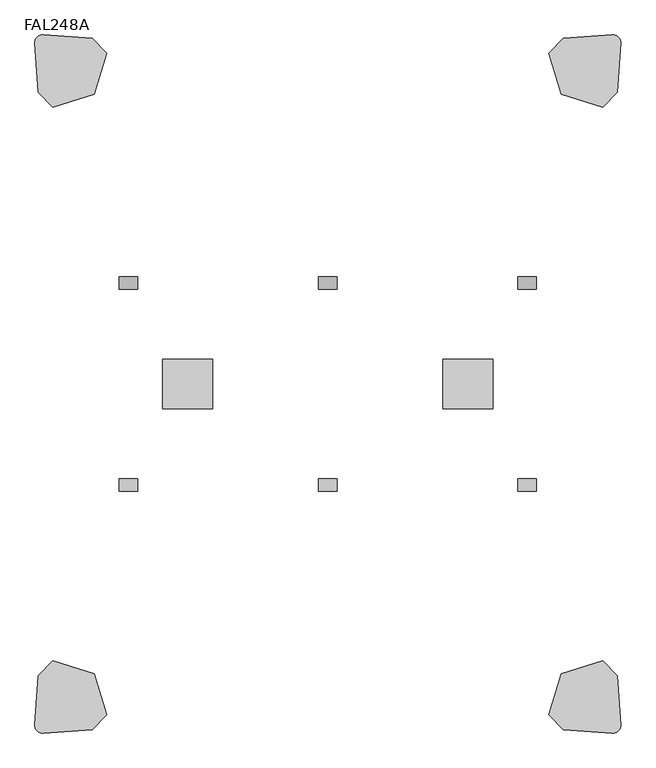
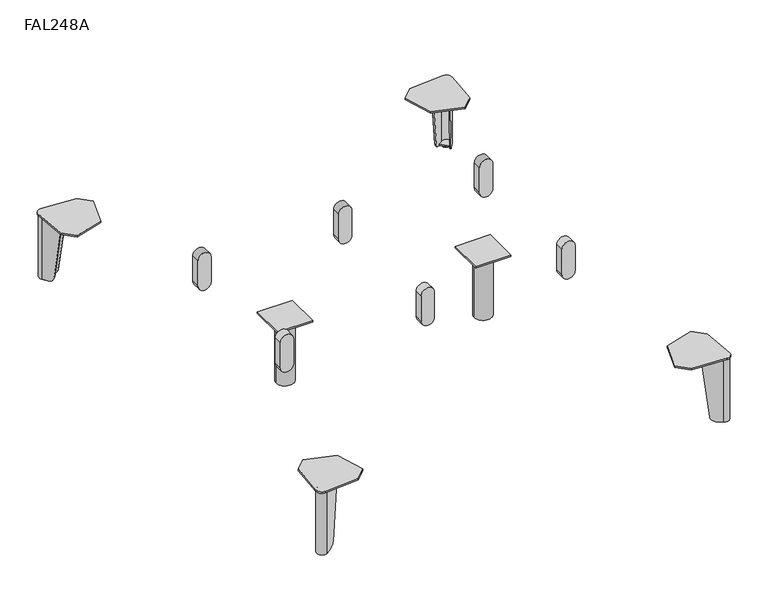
"""IFC4 building model written with IfcOpenShell, lengths in millimetres: furniture geometry, Stance_HC-Flora-Seat_Straight-Double_Side : FAL248A."""

from ifc_helpers import new_model, si_unit, point, frame, frame_2d, origin, origin_with_axes, place, context, project, spatial, polyline, circle_curve, ellipse_curve, trimmed, segment, composite_curve, outline, extrude, source, transform, mapped, element, save
from ifc_brep_helpers import plane_surface, cylinder_surface, revolved_surface, advanced_brep


def fal248a_1760e78e(model_context):
    return source(origin(), model_context, "Body", "SolidModel", [
        extrude(outline(composite_curve([segment(trimmed(circle_curve(frame_2d((298.45, 615.95)), 19.05), [point((298.45, 635.0))], [point((298.45, 596.9))], False, "CARTESIAN"), True, "CONTINUOUS"), segment(polyline([(298.45, 596.9), (222.25, 596.9)]), True, "CONTINUOUS"), segment(trimmed(circle_curve(frame_2d((222.25, 615.95)), 19.05), [point((222.25, 596.9))], [point((222.25, 635.0))], False, "CARTESIAN"), True, "CONTINUOUS"), segment(polyline([(222.25, 635.0), (298.45, 635.0)]), True, "CONTINUOUS")], self_intersect=False)), frame((0.0, 193.3564572, 0.0), z_axis=(0.0, 1.0, 0.0), x_axis=(0.0, 0.0, 1.0)), (0.0, 0.0, 1.0), 25.3999939),
        extrude(outline(composite_curve([segment(trimmed(circle_curve(frame_2d((298.45, 1022.35)), 19.05), [point((298.45, 1041.4))], [point((298.45, 1003.3))], False, "CARTESIAN"), True, "CONTINUOUS"), segment(polyline([(298.45, 1003.3), (222.25, 1003.3)]), True, "CONTINUOUS"), segment(trimmed(circle_curve(frame_2d((222.25, 1022.35)), 19.05), [point((222.25, 1003.3))], [point((222.25, 1041.4))], False, "CARTESIAN"), True, "CONTINUOUS"), segment(polyline([(222.25, 1041.4), (298.45, 1041.4)]), True, "CONTINUOUS")], self_intersect=False)), frame((0.0, 193.3564572, 0.0), z_axis=(0.0, 1.0, 0.0), x_axis=(0.0, 0.0, 1.0)), (0.0, 0.0, 1.0), 25.3999939),
        extrude(outline(composite_curve([segment(trimmed(circle_curve(frame_2d((298.45, 209.55)), 19.05), [point((298.45, 228.6))], [point((298.45, 190.5))], False, "CARTESIAN"), True, "CONTINUOUS"), segment(polyline([(298.45, 190.5), (222.25, 190.5)]), True, "CONTINUOUS"), segment(trimmed(circle_curve(frame_2d((222.25, 209.55)), 19.05), [point((222.25, 190.5))], [point((222.25, 228.6))], False, "CARTESIAN"), True, "CONTINUOUS"), segment(polyline([(222.25, 228.6), (298.45, 228.6)]), True, "CONTINUOUS")], self_intersect=False)), frame((0.0, 193.3564572, 0.0), z_axis=(0.0, 1.0, 0.0), x_axis=(0.0, 0.0, 1.0)), (0.0, 0.0, 1.0), 25.3999939),
        extrude(outline(composite_curve([segment(trimmed(circle_curve(frame_2d((901.7, 0.0)), 11.1125), [point((890.5875, 0.0))], [point((912.8125, 0.0))], False, "CARTESIAN"), True, "CONTINUOUS"), segment(trimmed(circle_curve(frame_2d((901.7, 0.0)), 11.1125), [point((912.8125, 0.0))], [point((890.5875, 0.0))], False, "CARTESIAN"), True, "CONTINUOUS")], self_intersect=False)), origin_with_axes(), (0.0, 0.0, 1.0), 3.175),
        extrude(outline(polyline([(952.5000061, 50.7999879), (952.5000061, -50.7999879), (850.8999939, -50.7999879), (850.8999939, 50.7999879), (952.5000061, 50.7999879)])), frame((0.0, 0.0, 193.6877233), z_axis=(0.0, 0.0, 1.0), x_axis=(1.0, 0.0, 0.0)), (0.0, 0.0, 1.0), 4.7751809),
        extrude(outline(composite_curve([segment(trimmed(circle_curve(frame_2d((901.7, 0.0)), 25.205275), [point((876.494725, 0.0))], [point((926.905275, 0.0))], False, "CARTESIAN"), True, "CONTINUOUS"), segment(trimmed(circle_curve(frame_2d((901.7, 0.0)), 25.205275), [point((926.905275, 0.0))], [point((876.494725, 0.0))], False, "CARTESIAN"), True, "CONTINUOUS")], self_intersect=False)), frame((0.0, 0.0, 3.175), z_axis=(0.0, 0.0, 1.0), x_axis=(1.0, 0.0, 0.0)), (0.0, 0.0, 1.0), 190.5127233),
        extrude(outline(composite_curve([segment(trimmed(circle_curve(frame_2d((330.2, 0.0)), 11.1125), [point((319.0875, 0.0))], [point((341.3125, 0.0))], False, "CARTESIAN"), True, "CONTINUOUS"), segment(trimmed(circle_curve(frame_2d((330.2, 0.0)), 11.1125), [point((341.3125, 0.0))], [point((319.0875, 0.0))], False, "CARTESIAN"), True, "CONTINUOUS")], self_intersect=False)), origin_with_axes(), (0.0, 0.0, 1.0), 3.175),
        extrude(outline(polyline([(381.0000061, 50.7999879), (381.0000061, -50.7999879), (279.3999939, -50.7999879), (279.3999939, 50.7999879), (381.0000061, 50.7999879)])), frame((0.0, 0.0, 193.6877233), z_axis=(0.0, 0.0, 1.0), x_axis=(1.0, 0.0, 0.0)), (0.0, 0.0, 1.0), 4.7751809),
        extrude(outline(composite_curve([segment(trimmed(circle_curve(frame_2d((330.2, 0.0)), 25.205275), [point((304.994725, 0.0))], [point((355.405275, 0.0))], False, "CARTESIAN"), True, "CONTINUOUS"), segment(trimmed(circle_curve(frame_2d((330.2, 0.0)), 25.205275), [point((355.405275, 0.0))], [point((304.994725, 0.0))], False, "CARTESIAN"), True, "CONTINUOUS")], self_intersect=False)), frame((0.0, 0.0, 3.175), z_axis=(0.0, 0.0, 1.0), x_axis=(1.0, 0.0, 0.0)), (0.0, 0.0, 1.0), 190.5127233),
        extrude(outline(composite_curve([segment(polyline([(298.45, 596.9), (222.25, 596.9)]), True, "CONTINUOUS"), segment(trimmed(circle_curve(frame_2d((222.25, 615.95)), 19.05), [point((222.25, 596.9))], [point((222.25, 635.0))], False, "CARTESIAN"), True, "CONTINUOUS"), segment(polyline([(222.25, 635.0), (298.45, 635.0)]), True, "CONTINUOUS"), segment(trimmed(circle_curve(frame_2d((298.45, 615.95)), 19.05), [point((298.45, 635.0))], [point((298.45, 596.9))], False, "CARTESIAN"), True, "CONTINUOUS")], self_intersect=False)), frame((0.0, -218.7564511, 0.0), z_axis=(0.0, 1.0, 0.0), x_axis=(0.0, 0.0, 1.0)), (0.0, 0.0, 1.0), 25.3999939),
        extrude(outline(composite_curve([segment(polyline([(298.45, 1003.3), (222.25, 1003.3)]), True, "CONTINUOUS"), segment(trimmed(circle_curve(frame_2d((222.25, 1022.35)), 19.05), [point((222.25, 1003.3))], [point((222.25, 1041.4))], False, "CARTESIAN"), True, "CONTINUOUS"), segment(polyline([(222.25, 1041.4), (298.45, 1041.4)]), True, "CONTINUOUS"), segment(trimmed(circle_curve(frame_2d((298.45, 1022.35)), 19.05), [point((298.45, 1041.4))], [point((298.45, 1003.3))], False, "CARTESIAN"), True, "CONTINUOUS")], self_intersect=False)), frame((0.0, -218.7564511, 0.0), z_axis=(0.0, 1.0, 0.0), x_axis=(0.0, 0.0, 1.0)), (0.0, 0.0, 1.0), 25.3999939),
        extrude(outline(composite_curve([segment(polyline([(298.45, 190.5), (222.25, 190.5)]), True, "CONTINUOUS"), segment(trimmed(circle_curve(frame_2d((222.25, 209.55)), 19.05), [point((222.25, 190.5))], [point((222.25, 228.6))], False, "CARTESIAN"), True, "CONTINUOUS"), segment(polyline([(222.25, 228.6), (298.45, 228.6)]), True, "CONTINUOUS"), segment(trimmed(circle_curve(frame_2d((298.45, 209.55)), 19.05), [point((298.45, 228.6))], [point((298.45, 190.5))], False, "CARTESIAN"), True, "CONTINUOUS")], self_intersect=False)), frame((0.0, -218.7564511, 0.0), z_axis=(0.0, 1.0, 0.0), x_axis=(0.0, 0.0, 1.0)), (0.0, 0.0, 1.0), 25.3999939),
        extrude(outline(composite_curve([segment(polyline([(1176.0692791, 694.0381043), (1189.3741789, 703.3543316)]), True, "CONTINUOUS"), segment(trimmed(circle_curve(frame_2d((1196.0246983, 693.8564425)), 11.5947965), [point((1189.3741789, 703.3543316))], [point((1205.5225874, 687.2059231))], False, "CARTESIAN"), True, "CONTINUOUS"), segment(polyline([(1205.5225874, 687.2059231), (1196.2063601, 673.9010233), (1176.0692791, 694.0381043)]), True, "CONTINUOUS")], self_intersect=False)), frame((0.0, 0.0, 3.175), z_axis=(0.0, 0.0, 1.0), x_axis=(1.0, 0.0, 0.0)), (0.0, 0.0, 1.0), 3.3792927),
        advanced_brep(
        [(1176.2314582, 639.7701134, 193.6877233), (1208.1555647, 685.3622854, 193.6877233), (1187.5305412, 705.9873089, 193.6877233), (1141.9383719, 674.0632043, 193.6877233), (1143.7820096, 671.430227, 193.6877233), (1189.3741789, 703.3543316, 193.6877233), (1205.5225874, 687.2059231, 193.6877233), (1173.5984809, 641.6137512, 193.6877233), (1176.2314582, 639.7701134, 189.1419595), (1205.5225874, 687.2059231, 3.1876992), (1195.4018779, 672.7521081, 3.1876992), (1186.2247818, 659.6459075, 17.1280233), (1189.3741789, 703.3543316, 3.1876992), (1161.8141633, 684.056526, 17.1280233), (1174.9203639, 693.2336221, 3.1876992), (1141.9383719, 674.0632043, 189.1419334), (1187.5305412, 705.9873089, 3.1876992), (1172.6124662, 695.5415198, 3.1876992), (1159.5062656, 686.3644237, 17.1280233), (1208.1555647, 685.3622854, 3.1876992), (1188.5326795, 657.3380098, 17.1280233), (1197.7097756, 670.4442103, 3.1876992)],
        [
            (0, 1),
            (1, 2, circle_curve(frame((1196.0246983, 693.8564425, 193.6877233), z_axis=(0.0, 0.0, 1.0), x_axis=(-1.0, 0.0, 0.0)), 14.8090724)),
            (2, 3),
            (3, 4),
            (4, 5),
            (5, 6, circle_curve(frame((1196.0246983, 693.8564425, 193.6877233), z_axis=(0.0, 0.0, -1.0), x_axis=(-1.0, 0.0, 0.0)), 11.5947965)),
            (6, 7),
            (7, 0),
            (7, 8),
            (8, 0),
            (6, 9),
            (9, 10),
            (10, 11, ellipse_curve(frame((1195.4018779, 672.7521081, 19.0626992), z_axis=(-0.8191509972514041, 0.5735779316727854, 0.0), x_axis=(-0.5735779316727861, -0.8191509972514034, 0.0)), 16.1198923, 15.875)),
            (11, 7),
            (5, 12),
            (12, 9, circle_curve(frame((1196.0246983, 693.8564425, 3.1876992), z_axis=(0.0, 0.0, -1.0), x_axis=(-1.0, 0.0, 0.0)), 11.5947965)),
            (4, 13),
            (13, 14, ellipse_curve(frame((1174.9203639, 693.2336221, 19.0626992), z_axis=(0.5735779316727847, -0.8191509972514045, 0.0), x_axis=(0.8191509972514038, 0.5735779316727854, 0.0)), 16.1198923, 15.875)),
            (14, 12),
            (3, 15),
            (15, 4),
            (2, 16),
            (16, 17),
            (17, 18, ellipse_curve(frame((1172.6124662, 695.5415198, 19.0626992), z_axis=(-0.5735779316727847, 0.8191509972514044, 0.0), x_axis=(0.8191509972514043, 0.573577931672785, 0.0)), 16.1198923, 15.875)),
            (18, 15),
            (1, 19),
            (19, 16, circle_curve(frame((1196.0246983, 693.8564425, 3.1876992), z_axis=(0.0, 0.0, 1.0), x_axis=(-1.0, 0.0, 0.0)), 14.8090724)),
            (8, 20),
            (20, 21, ellipse_curve(frame((1197.7097756, 670.4442103, 19.0626992), z_axis=(0.8191509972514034, -0.5735779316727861, 0.0), x_axis=(-0.5735779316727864, -0.8191509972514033, 0.0)), 16.1198923, 15.875)),
            (21, 19),
            (18, 13),
            (11, 20),
            (21, 10),
            (14, 17),
        ],
        [
            plane_surface(frame((1173.5984809, 641.6137512, 193.6877233), z_axis=(0.0, 0.0, 1.0000000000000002), x_axis=(-0.8191509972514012, 0.5735779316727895, 0.0))),
            plane_surface(frame((1176.2314582, 639.7701134, 193.6877233), z_axis=(-0.5735779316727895, -0.8191509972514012, 0.0), x_axis=(0.0, 0.0, -1.0))),
            plane_surface(frame((1173.5984809, 641.6137512, 193.6877233), z_axis=(-0.8191509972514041, 0.5735779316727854, 0.0), x_axis=(0.0, 0.0, -1.0))),
            revolved_surface(polyline([(1184.4299018, 693.8564425, 3.1876992), (1184.4299018, 693.8564425, 193.6877233)]), (1196.0246983, 693.8564425, 0.0), (0.0, 0.0, -1.0)),
            plane_surface(frame((1189.3741789, 703.3543316, 193.6877233), z_axis=(0.5735779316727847, -0.8191509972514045, 0.0), x_axis=(0.0, 0.0, -1.0))),
            plane_surface(frame((1143.7820096, 671.430227, 193.6877233), z_axis=(-0.8191509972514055, -0.5735779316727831, 0.0), x_axis=(0.0, 0.0, -1.0))),
            plane_surface(frame((1141.9383719, 674.0632043, 193.6877233), z_axis=(-0.5735779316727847, 0.8191509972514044, 0.0), x_axis=(0.0, 0.0, -1.0))),
            cylinder_surface(frame((1196.0246983, 693.8564425, 0.0), z_axis=(0.0, 0.0, 1.0), x_axis=(-1.0, 0.0, 0.0)), 14.8090724),
            plane_surface(frame((1208.1555647, 685.3622854, 193.6877233), z_axis=(0.8191509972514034, -0.5735779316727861, 0.0), x_axis=(0.0, 0.0, -1.0))),
            plane_surface(frame((1153.6224625, 692.2482268, 17.1280233), z_axis=(-0.7018361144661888, -0.7018361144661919, -0.12186934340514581), x_axis=(0.7071067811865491, -0.707106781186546, 0.0))),
            plane_surface(frame((1186.112818, 724.7385823, 3.1876992), z_axis=(0.0, 0.0, -1.0), x_axis=(0.707106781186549, -0.707106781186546, 0.0))),
            cylinder_surface(frame((1205.5497538, 662.6042321, 19.0626992), z_axis=(0.7071067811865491, -0.707106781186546, 0.0), x_axis=(-0.707106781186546, -0.7071067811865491, 0.0)), 15.875),
        ],
        [
            (0, [[1, 2, 3, 4, 5, 6, 7, 8]]),
            (1, [[9, 10, -8]]),
            (2, [[11, 12, 13, 14, -7]]),
            (3, [[15, 16, -11, -6]]),
            (4, [[17, 18, 19, -15, -5]]),
            (5, [[20, 21, -4]]),
            (6, [[22, 23, 24, 25, -20, -3]]),
            (7, [[26, 27, -22, -2]]),
            (8, [[-10, 28, 29, 30, -26, -1]]),
            (9, [[-17, -21, -25, 31]]),
            (9, [[-28, -9, -14, 32]]),
            (10, [[-23, -27, -30, 33, -12, -16, -19, 34]]),
            (11, [[-13, -33, -29, -32]]),
            (11, [[-24, -34, -18, -31]]),
        ],
    ),
        extrude(outline(composite_curve([segment(trimmed(circle_curve(frame_2d((1193.9913541, 691.8314754)), 11.1125), [point((1205.1038541, 691.8314754))], [point((1182.8788541, 691.8314754))], False, "CARTESIAN"), True, "CONTINUOUS"), segment(trimmed(circle_curve(frame_2d((1193.9913541, 691.8314754)), 11.1125), [point((1182.8788541, 691.8314754))], [point((1205.1038541, 691.8314754))], False, "CARTESIAN"), True, "CONTINUOUS")], self_intersect=False)), origin_with_axes(), (0.0, 0.0, 1.0), 3.175),
        extrude(outline(composite_curve([segment(trimmed(circle_curve(frame_2d((1197.3438064, 695.1755514)), 15.8749964), [point((1196.2364228, 711.0118771))], [point((1213.1801321, 694.068168))], False, "CARTESIAN"), True, "CONTINUOUS"), segment(polyline([(1213.1801321, 694.068168), (1206.1831602, 594.0067725), (1176.3327865, 564.1564041), (1092.3896864, 590.2214231), (1066.3246518, 674.1645314), (1096.1750239, 704.0149035), (1196.2364228, 711.0118771)]), True, "CONTINUOUS")], self_intersect=False)), frame((0.0, 0.0, 193.6877233), z_axis=(0.0, 0.0, 1.0), x_axis=(1.0, 0.0, 0.0)), (0.0, 0.0, 1.0), 4.7751809),
        extrude(outline(composite_curve([segment(polyline([(1176.0692791, -694.2378839), (1196.2063601, -674.1008029), (1205.5225874, -687.4057027)]), True, "CONTINUOUS"), segment(trimmed(circle_curve(frame_2d((1196.0246983, -694.0562221)), 11.5947965), [point((1205.5225874, -687.4057027))], [point((1189.3741789, -703.5541112))], False, "CARTESIAN"), True, "CONTINUOUS"), segment(polyline([(1189.3741789, -703.5541112), (1176.0692791, -694.2378839)]), True, "CONTINUOUS")], self_intersect=False)), frame((0.0, 0.0, 3.175), z_axis=(0.0, 0.0, 1.0), x_axis=(1.0, 0.0, 0.0)), (0.0, 0.0, 1.0), 3.3792927),
        advanced_brep(
        [(1176.2314582, -639.969893, 193.6877233), (1173.5984809, -641.8135308, 193.6877233), (1205.5225874, -687.4057027, 193.6877233), (1189.3741789, -703.5541112, 193.6877233), (1143.7820096, -671.6300066, 193.6877233), (1141.9383719, -674.2629839, 193.6877233), (1187.5305412, -706.1870885, 193.6877233), (1208.1555647, -685.562065, 193.6877233), (1176.2314582, -639.969893, 189.1419595), (1186.2247818, -659.8456871, 17.1280233), (1195.4018779, -672.9518877, 3.1876992), (1205.5225874, -687.4057027, 3.1876992), (1189.3741789, -703.5541112, 3.1876992), (1174.9203639, -693.4334017, 3.1876992), (1161.8141633, -684.2563056, 17.1280233), (1141.9383719, -674.2629839, 189.1419334), (1159.5062656, -686.5642033, 17.1280233), (1172.6124662, -695.7412994, 3.1876992), (1187.5305412, -706.1870885, 3.1876992), (1208.1555647, -685.562065, 3.1876992), (1197.7097756, -670.64399, 3.1876992), (1188.5326795, -657.5377894, 17.1280233)],
        [
            (0, 1),
            (1, 2),
            (2, 3, circle_curve(frame((1196.0246983, -694.0562221, 193.6877233), z_axis=(0.0, 0.0, -1.0), x_axis=(-1.0, 0.0, 0.0)), 11.5947965)),
            (3, 4),
            (4, 5),
            (5, 6),
            (6, 7, circle_curve(frame((1196.0246983, -694.0562221, 193.6877233), z_axis=(0.0, 0.0, 1.0), x_axis=(-1.0, 0.0, 0.0)), 14.8090724)),
            (7, 0),
            (0, 8),
            (8, 1),
            (1, 9),
            (9, 10, ellipse_curve(frame((1195.4018779, -672.9518877, 19.0626992), z_axis=(-0.8191509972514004, -0.5735779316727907, 0.0), x_axis=(-0.5735779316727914, 0.8191509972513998, 0.0)), 16.1198923, 15.875)),
            (10, 11),
            (11, 2),
            (11, 12, circle_curve(frame((1196.0246983, -694.0562221, 3.1876992), z_axis=(0.0, 0.0, -1.0), x_axis=(-1.0, 0.0, 0.0)), 11.5947965)),
            (12, 3),
            (12, 13),
            (13, 14, ellipse_curve(frame((1174.9203639, -693.4334017, 19.0626992), z_axis=(0.5735779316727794, 0.8191509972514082, 0.0), x_axis=(0.8191509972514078, -0.5735779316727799, 0.0)), 16.1198923, 15.875)),
            (14, 4),
            (4, 15),
            (15, 5),
            (15, 16),
            (16, 17, ellipse_curve(frame((1172.6124662, -695.7412994, 19.0626992), z_axis=(-0.5735779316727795, -0.8191509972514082, 0.0), x_axis=(0.8191509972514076, -0.5735779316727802, 0.0)), 16.1198923, 15.875)),
            (17, 18),
            (18, 6),
            (18, 19, circle_curve(frame((1196.0246983, -694.0562221, 3.1876992), z_axis=(0.0, 0.0, 1.0), x_axis=(-1.0, 0.0, 0.0)), 14.8090724)),
            (19, 7),
            (19, 20),
            (20, 21, ellipse_curve(frame((1197.7097756, -670.64399, 19.0626992), z_axis=(0.8191509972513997, 0.5735779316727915, 0.0), x_axis=(-0.573577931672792, 0.8191509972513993, 0.0)), 16.1198923, 15.875)),
            (21, 8),
            (14, 16),
            (21, 9),
            (17, 13),
            (10, 20),
        ],
        [
            plane_surface(frame((1173.5984809, -641.8135308, 193.6877233), z_axis=(0.0, 0.0, 0.9999999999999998), x_axis=(-0.8191509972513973, -0.5735779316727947, 0.0))),
            plane_surface(frame((1176.2314582, -639.969893, 193.6877233), z_axis=(-0.5735779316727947, 0.8191509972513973, 0.0), x_axis=(0.0, 0.0, -1.0))),
            plane_surface(frame((1173.5984809, -641.8135308, 193.6877233), z_axis=(-0.8191509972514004, -0.5735779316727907, 0.0), x_axis=(0.0, 0.0, -1.0))),
            revolved_surface(polyline([(1184.4299018, -694.0562221, 3.1876992), (1184.4299018, -694.0562221, 193.6877233)]), (1196.0246983, -694.0562221, 0.0), (0.0, 0.0, -1.0)),
            plane_surface(frame((1189.3741789, -703.5541112, 193.6877233), z_axis=(0.5735779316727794, 0.8191509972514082, 0.0), x_axis=(0.0, 0.0, -1.0))),
            plane_surface(frame((1143.7820096, -671.6300066, 193.6877233), z_axis=(-0.8191509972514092, 0.5735779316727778, 0.0), x_axis=(0.0, 0.0, -1.0))),
            plane_surface(frame((1141.9383719, -674.2629839, 193.6877233), z_axis=(-0.5735779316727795, -0.8191509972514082, 0.0), x_axis=(0.0, 0.0, -1.0))),
            cylinder_surface(frame((1196.0246983, -694.0562221, 0.0), z_axis=(0.0, 0.0, 1.0), x_axis=(-1.0, 0.0, 0.0)), 14.8090724),
            plane_surface(frame((1208.1555647, -685.562065, 193.6877233), z_axis=(0.8191509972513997, 0.5735779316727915, 0.0), x_axis=(0.0, 0.0, -1.0))),
            plane_surface(frame((1153.6224625, -692.4480064, 17.1280233), z_axis=(-0.7018361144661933, 0.7018361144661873, -0.12186934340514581), x_axis=(0.7071067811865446, 0.7071067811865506, 0.0))),
            plane_surface(frame((1186.112818, -724.9383619, 3.1876992), z_axis=(0.0, 0.0, -1.0), x_axis=(0.7071067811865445, 0.7071067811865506, 0.0))),
            cylinder_surface(frame((1205.5497538, -662.8040117, 19.0626992), z_axis=(0.7071067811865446, 0.7071067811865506, 0.0), x_axis=(-0.7071067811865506, 0.7071067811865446, 0.0)), 15.875),
        ],
        [
            (0, [[1, 2, 3, 4, 5, 6, 7, 8]]),
            (1, [[-1, 9, 10]]),
            (2, [[-2, 11, 12, 13, 14]]),
            (3, [[-3, -14, 15, 16]]),
            (4, [[-4, -16, 17, 18, 19]]),
            (5, [[-5, 20, 21]]),
            (6, [[-6, -21, 22, 23, 24, 25]]),
            (7, [[-7, -25, 26, 27]]),
            (8, [[-8, -27, 28, 29, 30, -9]]),
            (9, [[31, -22, -20, -19]]),
            (9, [[32, -11, -10, -30]]),
            (10, [[33, -17, -15, -13, 34, -28, -26, -24]]),
            (11, [[-31, -18, -33, -23]]),
            (11, [[-32, -29, -34, -12]]),
        ],
    ),
        extrude(outline(composite_curve([segment(trimmed(circle_curve(frame_2d((1193.9913541, -692.031255)), 11.1125), [point((1205.1038541, -692.031255))], [point((1182.8788541, -692.031255))], False, "CARTESIAN"), True, "CONTINUOUS"), segment(trimmed(circle_curve(frame_2d((1193.9913541, -692.031255)), 11.1125), [point((1182.8788541, -692.031255))], [point((1205.1038541, -692.031255))], False, "CARTESIAN"), True, "CONTINUOUS")], self_intersect=False)), origin_with_axes(), (0.0, 0.0, 1.0), 3.175),
        extrude(outline(composite_curve([segment(polyline([(1196.2364228, -711.2116567), (1096.1750239, -704.2146831), (1066.3246518, -674.364311), (1092.3896864, -590.4212027), (1176.3327865, -564.3561837), (1206.1831602, -594.2065521), (1213.1801321, -694.2679476)]), True, "CONTINUOUS"), segment(trimmed(circle_curve(frame_2d((1197.3438064, -695.375331)), 15.8749964), [point((1213.1801321, -694.2679476))], [point((1196.2364228, -711.2116567))], False, "CARTESIAN"), True, "CONTINUOUS")], self_intersect=False)), frame((0.0, 0.0, 193.6877233), z_axis=(0.0, 0.0, 1.0), x_axis=(1.0, 0.0, 0.0)), (0.0, 0.0, 1.0), 4.7751809),
        extrude(outline(composite_curve([segment(polyline([(55.8307262, -694.2378839), (42.5258264, -703.5541112)]), True, "CONTINUOUS"), segment(trimmed(circle_curve(frame_2d((35.875307, -694.0562221)), 11.5947965), [point((42.5258264, -703.5541112))], [point((26.3774179, -687.4057027))], False, "CARTESIAN"), True, "CONTINUOUS"), segment(polyline([(26.3774179, -687.4057027), (35.6936452, -674.1008029), (55.8307262, -694.2378839)]), True, "CONTINUOUS")], self_intersect=False)), frame((0.0, 0.0, 3.175), z_axis=(0.0, 0.0, 1.0), x_axis=(1.0, 0.0, 0.0)), (0.0, 0.0, 1.0), 3.3792927),
        advanced_brep(
        [(55.6685471, -639.969893, 193.6877233), (23.7444406, -685.562065, 193.6877233), (44.3694641, -706.1870885, 193.6877233), (89.9616334, -674.2629839, 193.6877233), (88.1179957, -671.6300066, 193.6877233), (42.5258264, -703.5541112, 193.6877233), (26.3774179, -687.4057027, 193.6877233), (58.3015244, -641.8135308, 193.6877233), (55.6685471, -639.969893, 189.1419595), (26.3774179, -687.4057027, 3.1876992), (36.4981274, -672.9518877, 3.1876992), (45.6752235, -659.8456871, 17.1280233), (42.5258264, -703.5541112, 3.1876992), (70.085842, -684.2563056, 17.1280233), (56.9796414, -693.4334017, 3.1876992), (89.9616334, -674.2629839, 189.1419334), (44.3694641, -706.1870885, 3.1876992), (59.2875391, -695.7412994, 3.1876992), (72.3937397, -686.5642033, 17.1280233), (23.7444406, -685.562065, 3.1876992), (43.3673258, -657.5377894, 17.1280233), (34.1902297, -670.64399, 3.1876992)],
        [
            (0, 1),
            (1, 2, circle_curve(frame((35.875307, -694.0562221, 193.6877233), z_axis=(0.0, 0.0, 1.0), x_axis=(1.0, 0.0, 0.0)), 14.8090724)),
            (2, 3),
            (3, 4),
            (4, 5),
            (5, 6, circle_curve(frame((35.875307, -694.0562221, 193.6877233), z_axis=(0.0, 0.0, -1.0), x_axis=(1.0, 0.0, 0.0)), 11.5947965)),
            (6, 7),
            (7, 0),
            (7, 8),
            (8, 0),
            (6, 9),
            (9, 10),
            (10, 11, ellipse_curve(frame((36.4981274, -672.9518877, 19.0626992), z_axis=(0.8191509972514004, -0.5735779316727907, 0.0), x_axis=(0.5735779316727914, 0.8191509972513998, 0.0)), 16.1198923, 15.875)),
            (11, 7),
            (5, 12),
            (12, 9, circle_curve(frame((35.875307, -694.0562221, 3.1876992), z_axis=(0.0, 0.0, -1.0), x_axis=(1.0, 0.0, 0.0)), 11.5947965)),
            (4, 13),
            (13, 14, ellipse_curve(frame((56.9796414, -693.4334017, 19.0626992), z_axis=(-0.5735779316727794, 0.8191509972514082, 0.0), x_axis=(-0.8191509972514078, -0.5735779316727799, 0.0)), 16.1198923, 15.875)),
            (14, 12),
            (3, 15),
            (15, 4),
            (2, 16),
            (16, 17),
            (17, 18, ellipse_curve(frame((59.2875391, -695.7412994, 19.0626992), z_axis=(0.5735779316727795, -0.8191509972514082, 0.0), x_axis=(-0.8191509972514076, -0.5735779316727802, 0.0)), 16.1198923, 15.875)),
            (18, 15),
            (1, 19),
            (19, 16, circle_curve(frame((35.875307, -694.0562221, 3.1876992), z_axis=(0.0, 0.0, 1.0), x_axis=(1.0, 0.0, 0.0)), 14.8090724)),
            (8, 20),
            (20, 21, ellipse_curve(frame((34.1902297, -670.64399, 19.0626992), z_axis=(-0.8191509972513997, 0.5735779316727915, 0.0), x_axis=(0.573577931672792, 0.8191509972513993, 0.0)), 16.1198923, 15.875)),
            (21, 19),
            (18, 13),
            (11, 20),
            (21, 10),
            (14, 17),
        ],
        [
            plane_surface(frame((58.3015244, -641.8135308, 193.6877233), z_axis=(0.0, 0.0, 0.9999999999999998), x_axis=(0.8191509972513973, -0.5735779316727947, 0.0))),
            plane_surface(frame((55.6685471, -639.969893, 193.6877233), z_axis=(0.5735779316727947, 0.8191509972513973, 0.0), x_axis=(0.0, 0.0, -1.0))),
            plane_surface(frame((58.3015244, -641.8135308, 193.6877233), z_axis=(0.8191509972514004, -0.5735779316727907, 0.0), x_axis=(0.0, 0.0, -1.0))),
            revolved_surface(polyline([(47.4701035, -694.0562221, 3.1876992), (47.4701035, -694.0562221, 193.6877233)]), (35.875307, -694.0562221, 0.0), (0.0, 0.0, -1.0)),
            plane_surface(frame((42.5258264, -703.5541112, 193.6877233), z_axis=(-0.5735779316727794, 0.8191509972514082, 0.0), x_axis=(0.0, 0.0, -1.0))),
            plane_surface(frame((88.1179957, -671.6300066, 193.6877233), z_axis=(0.8191509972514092, 0.5735779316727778, 0.0), x_axis=(0.0, 0.0, -1.0))),
            plane_surface(frame((89.9616334, -674.2629839, 193.6877233), z_axis=(0.5735779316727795, -0.8191509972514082, 0.0), x_axis=(0.0, 0.0, -1.0))),
            cylinder_surface(frame((35.875307, -694.0562221, 0.0), z_axis=(0.0, 0.0, 1.0), x_axis=(1.0, 0.0, 0.0)), 14.8090724),
            plane_surface(frame((23.7444406, -685.562065, 193.6877233), z_axis=(-0.8191509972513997, 0.5735779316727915, 0.0), x_axis=(0.0, 0.0, -1.0))),
            plane_surface(frame((78.2775428, -692.4480064, 17.1280233), z_axis=(0.7018361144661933, 0.7018361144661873, -0.12186934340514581), x_axis=(-0.7071067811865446, 0.7071067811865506, 0.0))),
            plane_surface(frame((45.7871873, -724.9383619, 3.1876992), z_axis=(0.0, 0.0, -1.0), x_axis=(-0.7071067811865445, 0.7071067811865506, 0.0))),
            cylinder_surface(frame((26.3502515, -662.8040117, 19.0626992), z_axis=(-0.7071067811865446, 0.7071067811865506, 0.0), x_axis=(0.7071067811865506, 0.7071067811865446, 0.0)), 15.875),
        ],
        [
            (0, [[1, 2, 3, 4, 5, 6, 7, 8]]),
            (1, [[9, 10, -8]]),
            (2, [[11, 12, 13, 14, -7]]),
            (3, [[15, 16, -11, -6]]),
            (4, [[17, 18, 19, -15, -5]]),
            (5, [[20, 21, -4]]),
            (6, [[22, 23, 24, 25, -20, -3]]),
            (7, [[26, 27, -22, -2]]),
            (8, [[-10, 28, 29, 30, -26, -1]]),
            (9, [[-17, -21, -25, 31]]),
            (9, [[-28, -9, -14, 32]]),
            (10, [[-23, -27, -30, 33, -12, -16, -19, 34]]),
            (11, [[-13, -33, -29, -32]]),
            (11, [[-24, -34, -18, -31]]),
        ],
    ),
        extrude(outline(composite_curve([segment(trimmed(circle_curve(frame_2d((37.9086512, -692.031255)), 11.1125), [point((26.7961512, -692.031255))], [point((49.0211512, -692.031255))], False, "CARTESIAN"), True, "CONTINUOUS"), segment(trimmed(circle_curve(frame_2d((37.9086512, -692.031255)), 11.1125), [point((49.0211512, -692.031255))], [point((26.7961512, -692.031255))], False, "CARTESIAN"), True, "CONTINUOUS")], self_intersect=False)), origin_with_axes(), (0.0, 0.0, 1.0), 3.175),
        extrude(outline(composite_curve([segment(trimmed(circle_curve(frame_2d((34.5561989, -695.375331)), 15.8749964), [point((35.6635825, -711.2116567))], [point((18.7198732, -694.2679476))], False, "CARTESIAN"), True, "CONTINUOUS"), segment(polyline([(18.7198732, -694.2679476), (25.7168451, -594.2065521), (55.5672188, -564.3561837), (139.5103189, -590.4212027), (165.5753535, -674.364311), (135.7249814, -704.2146831), (35.6635825, -711.2116567)]), True, "CONTINUOUS")], self_intersect=False)), frame((0.0, 0.0, 193.6877233), z_axis=(0.0, 0.0, 1.0), x_axis=(1.0, 0.0, 0.0)), (0.0, 0.0, 1.0), 4.7751809),
        extrude(outline(composite_curve([segment(polyline([(55.8307262, 694.0381043), (35.6936452, 673.9010233), (26.3774179, 687.2059231)]), True, "CONTINUOUS"), segment(trimmed(circle_curve(frame_2d((35.875307, 693.8564425)), 11.5947965), [point((26.3774179, 687.2059231))], [point((42.5258264, 703.3543316))], False, "CARTESIAN"), True, "CONTINUOUS"), segment(polyline([(42.5258264, 703.3543316), (55.8307262, 694.0381043)]), True, "CONTINUOUS")], self_intersect=False)), frame((0.0, 0.0, 3.175), z_axis=(0.0, 0.0, 1.0), x_axis=(1.0, 0.0, 0.0)), (0.0, 0.0, 1.0), 3.3792927),
        advanced_brep(
        [(55.6685471, 639.7701134, 193.6877233), (58.3015244, 641.6137512, 193.6877233), (26.3774179, 687.2059231, 193.6877233), (42.5258264, 703.3543316, 193.6877233), (88.1179957, 671.430227, 193.6877233), (89.9616334, 674.0632043, 193.6877233), (44.3694641, 705.9873089, 193.6877233), (23.7444406, 685.3622854, 193.6877233), (55.6685471, 639.7701134, 189.1419595), (45.6752235, 659.6459075, 17.1280233), (36.4981274, 672.7521081, 3.1876992), (26.3774179, 687.2059231, 3.1876992), (42.5258264, 703.3543316, 3.1876992), (56.9796414, 693.2336221, 3.1876992), (70.085842, 684.056526, 17.1280233), (89.9616334, 674.0632043, 189.1419334), (72.3937397, 686.3644237, 17.1280233), (59.2875391, 695.5415198, 3.1876992), (44.3694641, 705.9873089, 3.1876992), (23.7444406, 685.3622854, 3.1876992), (34.1902297, 670.4442103, 3.1876992), (43.3673258, 657.3380098, 17.1280233)],
        [
            (0, 1),
            (1, 2),
            (2, 3, circle_curve(frame((35.875307, 693.8564425, 193.6877233), z_axis=(0.0, 0.0, -1.0), x_axis=(1.0, 0.0, 0.0)), 11.5947965)),
            (3, 4),
            (4, 5),
            (5, 6),
            (6, 7, circle_curve(frame((35.875307, 693.8564425, 193.6877233), z_axis=(0.0, 0.0, 1.0), x_axis=(1.0, 0.0, 0.0)), 14.8090724)),
            (7, 0),
            (0, 8),
            (8, 1),
            (1, 9),
            (9, 10, ellipse_curve(frame((36.4981274, 672.7521081, 19.0626992), z_axis=(0.8191509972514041, 0.5735779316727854, 0.0), x_axis=(0.5735779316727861, -0.8191509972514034, 0.0)), 16.1198923, 15.875)),
            (10, 11),
            (11, 2),
            (11, 12, circle_curve(frame((35.875307, 693.8564425, 3.1876992), z_axis=(0.0, 0.0, -1.0), x_axis=(1.0, 0.0, 0.0)), 11.5947965)),
            (12, 3),
            (12, 13),
            (13, 14, ellipse_curve(frame((56.9796414, 693.2336221, 19.0626992), z_axis=(-0.5735779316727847, -0.8191509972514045, 0.0), x_axis=(-0.8191509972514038, 0.5735779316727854, 0.0)), 16.1198923, 15.875)),
            (14, 4),
            (4, 15),
            (15, 5),
            (15, 16),
            (16, 17, ellipse_curve(frame((59.2875391, 695.5415198, 19.0626992), z_axis=(0.5735779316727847, 0.8191509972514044, 0.0), x_axis=(-0.8191509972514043, 0.573577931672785, 0.0)), 16.1198923, 15.875)),
            (17, 18),
            (18, 6),
            (18, 19, circle_curve(frame((35.875307, 693.8564425, 3.1876992), z_axis=(0.0, 0.0, 1.0), x_axis=(1.0, 0.0, 0.0)), 14.8090724)),
            (19, 7),
            (19, 20),
            (20, 21, ellipse_curve(frame((34.1902297, 670.4442103, 19.0626992), z_axis=(-0.8191509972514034, -0.5735779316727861, 0.0), x_axis=(0.5735779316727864, -0.8191509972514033, 0.0)), 16.1198923, 15.875)),
            (21, 8),
            (14, 16),
            (21, 9),
            (17, 13),
            (10, 20),
        ],
        [
            plane_surface(frame((58.3015244, 641.6137512, 193.6877233), z_axis=(0.0, 0.0, 1.0000000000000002), x_axis=(0.8191509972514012, 0.5735779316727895, 0.0))),
            plane_surface(frame((55.6685471, 639.7701134, 193.6877233), z_axis=(0.5735779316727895, -0.8191509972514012, 0.0), x_axis=(0.0, 0.0, -1.0))),
            plane_surface(frame((58.3015244, 641.6137512, 193.6877233), z_axis=(0.8191509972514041, 0.5735779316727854, 0.0), x_axis=(0.0, 0.0, -1.0))),
            revolved_surface(polyline([(47.4701035, 693.8564425, 3.1876992), (47.4701035, 693.8564425, 193.6877233)]), (35.875307, 693.8564425, 0.0), (0.0, 0.0, -1.0)),
            plane_surface(frame((42.5258264, 703.3543316, 193.6877233), z_axis=(-0.5735779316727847, -0.8191509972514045, 0.0), x_axis=(0.0, 0.0, -1.0))),
            plane_surface(frame((88.1179957, 671.430227, 193.6877233), z_axis=(0.8191509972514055, -0.5735779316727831, 0.0), x_axis=(0.0, 0.0, -1.0))),
            plane_surface(frame((89.9616334, 674.0632043, 193.6877233), z_axis=(0.5735779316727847, 0.8191509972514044, 0.0), x_axis=(0.0, 0.0, -1.0))),
            cylinder_surface(frame((35.875307, 693.8564425, 0.0), z_axis=(0.0, 0.0, 1.0), x_axis=(1.0, 0.0, 0.0)), 14.8090724),
            plane_surface(frame((23.7444406, 685.3622854, 193.6877233), z_axis=(-0.8191509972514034, -0.5735779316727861, 0.0), x_axis=(0.0, 0.0, -1.0))),
            plane_surface(frame((78.2775428, 692.2482268, 17.1280233), z_axis=(0.7018361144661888, -0.7018361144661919, -0.12186934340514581), x_axis=(-0.7071067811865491, -0.707106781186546, 0.0))),
            plane_surface(frame((45.7871873, 724.7385823, 3.1876992), z_axis=(0.0, 0.0, -1.0), x_axis=(-0.707106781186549, -0.707106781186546, 0.0))),
            cylinder_surface(frame((26.3502515, 662.6042321, 19.0626992), z_axis=(-0.7071067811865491, -0.707106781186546, 0.0), x_axis=(0.707106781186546, -0.7071067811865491, 0.0)), 15.875),
        ],
        [
            (0, [[1, 2, 3, 4, 5, 6, 7, 8]]),
            (1, [[-1, 9, 10]]),
            (2, [[-2, 11, 12, 13, 14]]),
            (3, [[-3, -14, 15, 16]]),
            (4, [[-4, -16, 17, 18, 19]]),
            (5, [[-5, 20, 21]]),
            (6, [[-6, -21, 22, 23, 24, 25]]),
            (7, [[-7, -25, 26, 27]]),
            (8, [[-8, -27, 28, 29, 30, -9]]),
            (9, [[31, -22, -20, -19]]),
            (9, [[32, -11, -10, -30]]),
            (10, [[33, -17, -15, -13, 34, -28, -26, -24]]),
            (11, [[-31, -18, -33, -23]]),
            (11, [[-32, -29, -34, -12]]),
        ],
    ),
        extrude(outline(composite_curve([segment(trimmed(circle_curve(frame_2d((37.9086512, 691.8314754)), 11.1125), [point((26.7961512, 691.8314754))], [point((49.0211512, 691.8314754))], False, "CARTESIAN"), True, "CONTINUOUS"), segment(trimmed(circle_curve(frame_2d((37.9086512, 691.8314754)), 11.1125), [point((49.0211512, 691.8314754))], [point((26.7961512, 691.8314754))], False, "CARTESIAN"), True, "CONTINUOUS")], self_intersect=False)), origin_with_axes(), (0.0, 0.0, 1.0), 3.175),
        extrude(outline(composite_curve([segment(polyline([(35.6635825, 711.0118771), (135.7249814, 704.0149035), (165.5753535, 674.1645314), (139.5103189, 590.2214231), (55.5672188, 564.1564041), (25.7168451, 594.0067725), (18.7198732, 694.068168)]), True, "CONTINUOUS"), segment(trimmed(circle_curve(frame_2d((34.5561989, 695.1755514)), 15.8749964), [point((18.7198732, 694.068168))], [point((35.6635825, 711.0118771))], False, "CARTESIAN"), True, "CONTINUOUS")], self_intersect=False)), frame((0.0, 0.0, 193.6877233), z_axis=(0.0, 0.0, 1.0), x_axis=(1.0, 0.0, 0.0)), (0.0, 0.0, 1.0), 4.7751809),
    ])


if __name__ == "__main__":
    model = new_model("IFC4")
    model_context = context("Model", 3, world=origin())
    ifc_project = project(units=[si_unit("LENGTHUNIT", "METRE", prefix="MILLI")], contexts=[model_context])
    site = spatial("IfcSite", under=ifc_project)
    building = spatial("IfcBuilding", under=site)
    placement = place(None, origin())
    fal248a_shape = fal248a_1760e78e(model_context)
    element("IfcFurniture", 1, ObjectType="Stance_HC-Flora-Seat_Straight-Double_Side : FAL248A", at=placement, inside=building, context=model_context, shape_type="MappedRepresentation", body=[
        mapped(fal248a_shape, transform((0.0, 0.0, 0.0), x_axis=(1.0, 0.0, 0.0), y_axis=(0.0, 1.0, 0.0), z_axis=(0.0, 0.0, 1.0))),
    ])
    save(model, "model.ifc")
